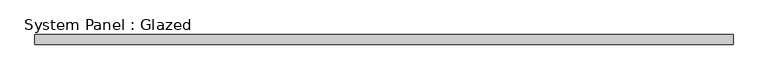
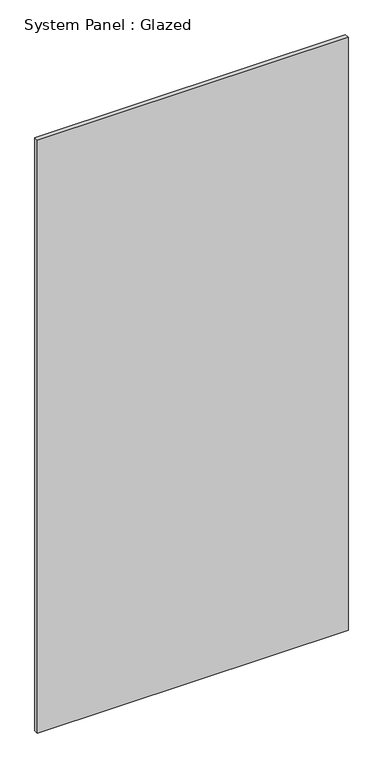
"""IFC4 building model written with IfcOpenShell, lengths in millimetres: plate geometry, System Panel : Glazed."""

import ifcopenshell
import ifcopenshell.guid

model = None  # the IFC model being written
_history = None  # IfcOwnerHistory: only IFC2X3 demands one
_inside = {}  # id of a spatial element -> (the spatial element, [elements in it])
_under = {}  # id of a project, library or spatial element -> (it, [spatial elements below it])
_declared = {}  # id of a project -> (the project, [libraries it declares])
_typed = {}  # id of a type object -> (the type object, [elements of that type])
_made_of = {}  # id of a material, layer set ... -> (it, [elements and type objects made of it])


def new_model(schema):
    """Start an empty IFC model of exactly this schema.

    Asked for "IFC4X3", IfcOpenShell would pick the latest addendum, in which some entities
    have other attributes; the version numbers below select the first issue.
    IFC2X3 requires an IfcOwnerHistory on every rooted entity: one is made here for all.
    """
    global model, _history
    if schema == "IFC4X3":
        model = ifcopenshell.file(schema_version=(4, 3, 0, 0))
    else:
        model = ifcopenshell.file(schema=schema)
    _inside.clear()
    _under.clear()
    _declared.clear()
    _typed.clear()
    _made_of.clear()
    _history = None
    if model.schema == "IFC2X3":
        org = make("IfcOrganization", Name="unknown")
        user = make(
            "IfcPersonAndOrganization",
            ThePerson=make("IfcPerson", FamilyName="unknown"),
            TheOrganization=org,
        )
        app = make(
            "IfcApplication",
            ApplicationDeveloper=org,
            Version="unknown",
            ApplicationFullName="unknown",
            ApplicationIdentifier="unknown",
        )
        _history = make(
            "IfcOwnerHistory",
            OwningUser=user,
            OwningApplication=app,
            ChangeAction="ADDED",
            CreationDate=0,
        )
    return model


def make(cls, **values):
    """One entity of the class cls with the attributes given. An attribute that is None is left unset."""
    return model.create_entity(
        cls, **{name: value for name, value in values.items() if value is not None}
    )


def rooted(cls, **values):
    """An entity with a GlobalId (a new one), such as an element, a storey or a relation."""
    return make(cls, GlobalId=ifcopenshell.guid.new(), OwnerHistory=_history, **values)


def si_unit(unit_type, name, prefix=None):
    """IfcSIUnit, for example si_unit("LENGTHUNIT", "METRE", prefix="MILLI")."""
    return make("IfcSIUnit", UnitType=unit_type, Prefix=prefix, Name=name)


def assignment(units):
    """IfcUnitAssignment: the units of a project."""
    return None if units is None else make("IfcUnitAssignment", Units=units)


def point(xyz):
    """IfcCartesianPoint."""
    return None if xyz is None else make("IfcCartesianPoint", Coordinates=xyz)


def direction(xyz):
    """IfcDirection."""
    return None if xyz is None else make("IfcDirection", DirectionRatios=xyz)


def frame(location, z_axis=None, x_axis=None):
    """IfcAxis2Placement3D, a coordinate frame: its origin and axes. An axis left out is left unset."""
    return make(
        "IfcAxis2Placement3D",
        Location=point(location),
        Axis=direction(z_axis),
        RefDirection=direction(x_axis),
    )


def origin():
    """The frame at (0, 0, 0) with its axes left unset."""
    return frame((0.0, 0.0, 0.0))


def origin_with_axes():
    """The frame at (0, 0, 0) with the z axis (0, 0, 1) and the x axis (1, 0, 0) written out."""
    return frame((0.0, 0.0, 0.0), z_axis=(0.0, 0.0, 1.0), x_axis=(1.0, 0.0, 0.0))


def place(relative_to, where):
    """IfcLocalPlacement: puts the frame where relative to a parent placement (None: the world)."""
    return make(
        "IfcLocalPlacement", PlacementRelTo=relative_to, RelativePlacement=where
    )


def context(
    kind, dimensions, precision=None, world=None, true_north=None, identifier=None
):
    """IfcGeometricRepresentationContext, for example the 3D "Model" context."""
    return make(
        "IfcGeometricRepresentationContext",
        ContextIdentifier=identifier,
        ContextType=kind,
        CoordinateSpaceDimension=dimensions,
        Precision=precision,
        WorldCoordinateSystem=world,
        TrueNorth=true_north,
    )


def project(units=None, contexts=None):
    """IfcProject with its units and contexts."""
    return rooted(
        "IfcProject",
        Name="project",
        RepresentationContexts=contexts,
        UnitsInContext=assignment(units),
    )


def spatial(cls, under=None, at=None, **own):
    """A site, building, storey or space (cls), placed at a placement, below another one or the project."""
    s = rooted(cls, ObjectPlacement=at, **own)
    if under is not None:
        _under.setdefault(under.id(), (under, []))[1].append(s)
    return s


def polyline(points):
    """IfcPolyline through the points."""
    return make("IfcPolyline", Points=[point(p) for p in points])


def outline(outer, holes=None, kind="AREA"):
    """IfcArbitraryClosedProfileDef: a profile drawn as a closed curve; with holes, ...WithVoids."""
    if holes is None:
        return make("IfcArbitraryClosedProfileDef", ProfileType=kind, OuterCurve=outer)
    return make(
        "IfcArbitraryProfileDefWithVoids",
        ProfileType=kind,
        OuterCurve=outer,
        InnerCurves=holes,
    )


def extrude(swept, where, along, depth):
    """IfcExtrudedAreaSolid: the profile swept, set in the frame where, extruded along a direction by depth."""
    return make(
        "IfcExtrudedAreaSolid",
        SweptArea=swept,
        Position=where,
        ExtrudedDirection=direction(along),
        Depth=depth,
    )


def shape(context_of_items, identifier, shape_type, items):
    """IfcShapeRepresentation: the items that make up one representation, for example the "Body"."""
    return make(
        "IfcShapeRepresentation",
        ContextOfItems=context_of_items,
        RepresentationIdentifier=identifier,
        RepresentationType=shape_type,
        Items=items,
    )


def source(mapping_origin, context_of_items, identifier, shape_type, items):
    """IfcRepresentationMap: a shape defined once, which mapped items show again and again."""
    return make(
        "IfcRepresentationMap",
        MappingOrigin=mapping_origin,
        MappedRepresentation=shape(context_of_items, identifier, shape_type, items),
    )


def transform(
    local_origin,
    x_axis=None,
    y_axis=None,
    z_axis=None,
    scale=None,
    scale2=None,
    scale3=None,
    uniform=True,
):
    """IfcCartesianTransformationOperator3D, or its non-uniform kind. x_axis, y_axis, z_axis: its Axis1, 2, 3."""
    if uniform:
        return make(
            "IfcCartesianTransformationOperator3D",
            Axis1=direction(x_axis),
            Axis2=direction(y_axis),
            LocalOrigin=point(local_origin),
            Scale=scale,
            Axis3=direction(z_axis),
        )
    return make(
        "IfcCartesianTransformationOperator3DnonUniform",
        Axis1=direction(x_axis),
        Axis2=direction(y_axis),
        LocalOrigin=point(local_origin),
        Scale=scale,
        Axis3=direction(z_axis),
        Scale2=scale2,
        Scale3=scale3,
    )


def mapped(mapping_source, mapping_target):
    """IfcMappedItem: shows the shape of a source again, moved by a transform."""
    return make(
        "IfcMappedItem", MappingSource=mapping_source, MappingTarget=mapping_target
    )


def made_of(thing, what):
    """Note that an element or type object is made of a material, layer set ...; save() writes the relation."""
    if what is not None:
        _made_of.setdefault(what.id(), (what, []))[1].append(thing)
    return thing


def element(
    cls,
    number,
    at=None,
    inside=None,
    cuts=None,
    type_object=None,
    material=None,
    context=None,
    identifier="Body",
    shape_type=None,
    held_by="IfcProductDefinitionShape",
    body=None,
    shapes=None,
    **own,
):
    """One element of the class cls, such as IfcWall. Its Tag is "e" and its number.

    at: its placement. inside: the storey or other place that contains it. cuts: it is an
    opening in that element (IfcRelVoidsElement). A single representation is given by context,
    identifier, shape_type and body (its items); several are given by shapes. held_by: the class
    of the entity that holds the representations. save() writes the other relations.
    """
    e = rooted(cls, Tag="e%d" % number, ObjectPlacement=at, **own)
    if body is not None:
        shapes = [shape(context, identifier, shape_type, body)]
    if shapes is not None:
        e.Representation = make(held_by, Representations=shapes)
    if inside is not None:
        _inside.setdefault(inside.id(), (inside, []))[1].append(e)
    if cuts is not None:
        rooted(
            "IfcRelVoidsElement", RelatingBuildingElement=cuts, RelatedOpeningElement=e
        )
    if type_object is not None:
        _typed.setdefault(type_object.id(), (type_object, []))[1].append(e)
    return made_of(e, material)


def aggregate(whole, parts):
    """IfcRelAggregates: a whole, such as a stair, and the parts it consists of."""
    return rooted("IfcRelAggregates", RelatingObject=whole, RelatedObjects=parts)


def save(model, path):
    """Write the relations noted so far, then the file.

    IfcRelAggregates (storeys below a building ...), IfcRelContainedInSpatialStructure (elements
    in a storey), IfcRelDefinesByType, IfcRelAssociatesMaterial and IfcRelDeclares: one each for
    every whole, place, type object, material and project.
    """
    for whole, parts in _under.values():
        aggregate(whole, parts)
    for where, things in _inside.values():
        rooted(
            "IfcRelContainedInSpatialStructure",
            RelatedElements=things,
            RelatingStructure=where,
        )
    for kind, things in _typed.values():
        rooted("IfcRelDefinesByType", RelatedObjects=things, RelatingType=kind)
    for what, things in _made_of.values():
        rooted("IfcRelAssociatesMaterial", RelatedObjects=things, RelatingMaterial=what)
    for by, libraries in _declared.values():
        rooted("IfcRelDeclares", RelatingContext=by, RelatedDefinitions=libraries)
    model.write(path)


def system_panel_glazed_7e716341(model_context):
    return source(origin(), model_context, "Body", "SweptSolid", [
        extrude(outline(polyline([(882.65, 19.05), (-882.65, 19.05), (-882.65, 44.45), (882.65, 44.45), (882.65, 19.05)])), origin_with_axes(), (0.0, 0.0, 1.0), 3562.35),
    ])


if __name__ == "__main__":
    model = new_model("IFC4")
    model_context = context("Model", 3, world=origin())
    ifc_project = project(units=[si_unit("LENGTHUNIT", "METRE", prefix="MILLI")], contexts=[model_context])
    site = spatial("IfcSite", under=ifc_project)
    building = spatial("IfcBuilding", under=site)
    placement = place(None, origin())
    system_panel_glazed_shape = system_panel_glazed_7e716341(model_context)
    element("IfcPlate", 1, ObjectType="System Panel : Glazed", at=placement, inside=building, context=model_context, shape_type="MappedRepresentation", body=[
        mapped(system_panel_glazed_shape, transform((0.0, 0.0, 0.0), x_axis=(1.0, 0.0, 0.0), y_axis=(0.0, 1.0, 0.0), z_axis=(0.0, 0.0, 1.0))),
    ])
    save(model, "model.ifc")
